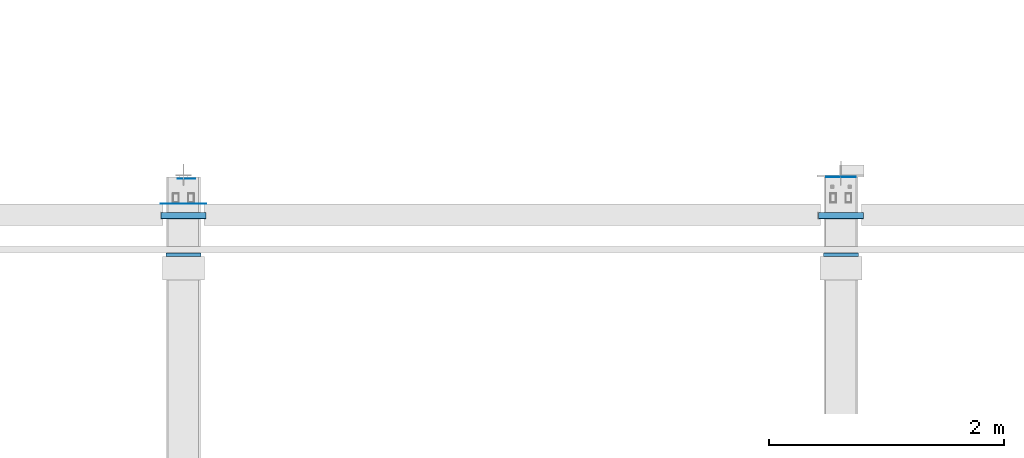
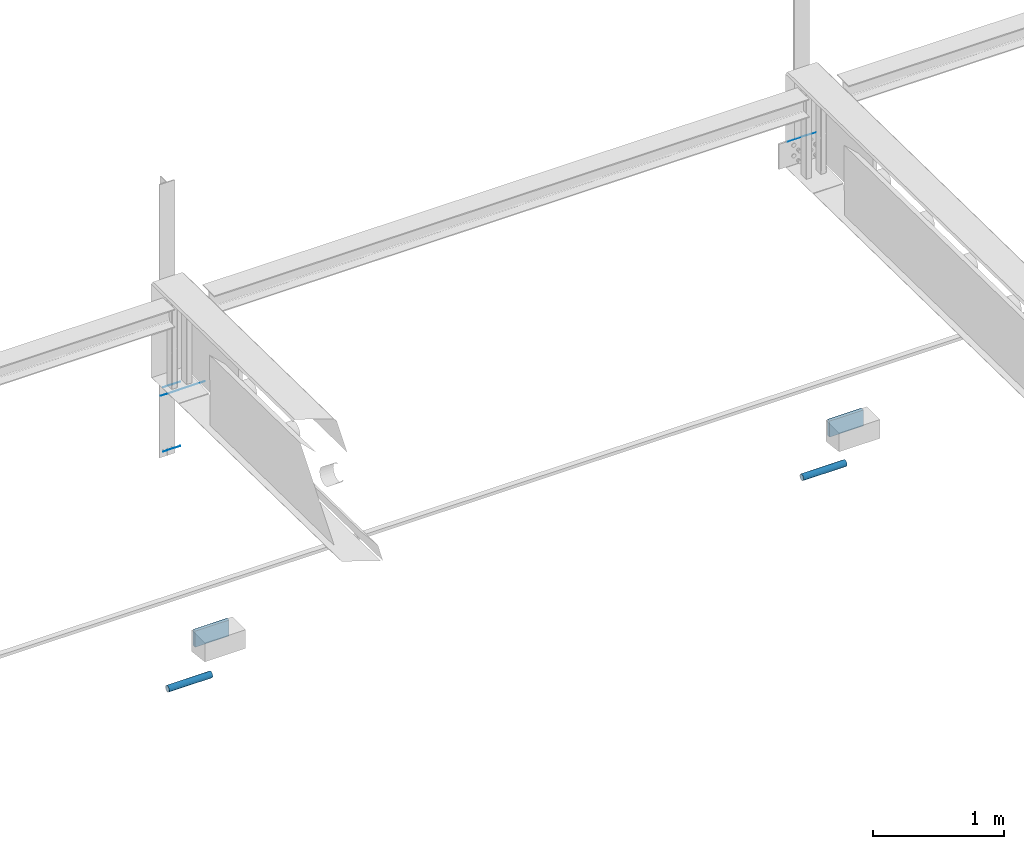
# One storey, part 37 of 186: 8 beams.
"""IFC4X3_ADD2 building model written with IfcOpenShell, lengths in millimetres."""

import ifcopenshell
import ifcopenshell.guid

model = None  # the IFC model being written
_history = None  # IfcOwnerHistory: only IFC2X3 demands one
_inside = {}  # id of a spatial element -> (the spatial element, [elements in it])
_under = {}  # id of a project, library or spatial element -> (it, [spatial elements below it])
_declared = {}  # id of a project -> (the project, [libraries it declares])
_typed = {}  # id of a type object -> (the type object, [elements of that type])
_made_of = {}  # id of a material, layer set ... -> (it, [elements and type objects made of it])


def new_model(schema):
    """Start an empty IFC model of exactly this schema.

    Asked for "IFC4X3", IfcOpenShell would pick the latest addendum, in which some entities
    have other attributes; the version numbers below select the first issue.
    IFC2X3 requires an IfcOwnerHistory on every rooted entity: one is made here for all.
    """
    global model, _history
    if schema == "IFC4X3":
        model = ifcopenshell.file(schema_version=(4, 3, 0, 0))
    else:
        model = ifcopenshell.file(schema=schema)
    _inside.clear()
    _under.clear()
    _declared.clear()
    _typed.clear()
    _made_of.clear()
    _history = None
    if model.schema == "IFC2X3":
        org = make("IfcOrganization", Name="unknown")
        user = make(
            "IfcPersonAndOrganization",
            ThePerson=make("IfcPerson", FamilyName="unknown"),
            TheOrganization=org,
        )
        app = make(
            "IfcApplication",
            ApplicationDeveloper=org,
            Version="unknown",
            ApplicationFullName="unknown",
            ApplicationIdentifier="unknown",
        )
        _history = make(
            "IfcOwnerHistory",
            OwningUser=user,
            OwningApplication=app,
            ChangeAction="ADDED",
            CreationDate=0,
        )
    return model


def make(cls, **values):
    """One entity of the class cls with the attributes given. An attribute that is None is left unset."""
    return model.create_entity(
        cls, **{name: value for name, value in values.items() if value is not None}
    )


def rooted(cls, **values):
    """An entity with a GlobalId (a new one), such as an element, a storey or a relation."""
    return make(cls, GlobalId=ifcopenshell.guid.new(), OwnerHistory=_history, **values)


def si_unit(unit_type, name, prefix=None):
    """IfcSIUnit, for example si_unit("LENGTHUNIT", "METRE", prefix="MILLI")."""
    return make("IfcSIUnit", UnitType=unit_type, Prefix=prefix, Name=name)


def assignment(units):
    """IfcUnitAssignment: the units of a project."""
    return None if units is None else make("IfcUnitAssignment", Units=units)


def point(xyz):
    """IfcCartesianPoint."""
    return None if xyz is None else make("IfcCartesianPoint", Coordinates=xyz)


def direction(xyz):
    """IfcDirection."""
    return None if xyz is None else make("IfcDirection", DirectionRatios=xyz)


def frame(location, z_axis=None, x_axis=None):
    """IfcAxis2Placement3D, a coordinate frame: its origin and axes. An axis left out is left unset."""
    return make(
        "IfcAxis2Placement3D",
        Location=point(location),
        Axis=direction(z_axis),
        RefDirection=direction(x_axis),
    )


def frame_2d(location, x_axis=None):
    """IfcAxis2Placement2D, a coordinate frame in the plane: its origin and x axis."""
    return make(
        "IfcAxis2Placement2D", Location=point(location), RefDirection=direction(x_axis)
    )


def origin_with_axes():
    """The frame at (0, 0, 0) with the z axis (0, 0, 1) and the x axis (1, 0, 0) written out."""
    return frame((0.0, 0.0, 0.0), z_axis=(0.0, 0.0, 1.0), x_axis=(1.0, 0.0, 0.0))


def place(relative_to, where):
    """IfcLocalPlacement: puts the frame where relative to a parent placement (None: the world)."""
    return make(
        "IfcLocalPlacement", PlacementRelTo=relative_to, RelativePlacement=where
    )


def context(
    kind, dimensions, precision=None, world=None, true_north=None, identifier=None
):
    """IfcGeometricRepresentationContext, for example the 3D "Model" context."""
    return make(
        "IfcGeometricRepresentationContext",
        ContextIdentifier=identifier,
        ContextType=kind,
        CoordinateSpaceDimension=dimensions,
        Precision=precision,
        WorldCoordinateSystem=world,
        TrueNorth=true_north,
    )


def subcontext(parent, identifier, kind, view, scale=None):
    """IfcGeometricRepresentationSubContext, for example "Body" below "Model"."""
    return make(
        "IfcGeometricRepresentationSubContext",
        ContextIdentifier=identifier,
        ContextType=kind,
        ParentContext=parent,
        TargetScale=scale,
        TargetView=view,
    )


def project(units=None, contexts=None):
    """IfcProject with its units and contexts."""
    return rooted(
        "IfcProject",
        Name="project",
        RepresentationContexts=contexts,
        UnitsInContext=assignment(units),
    )


def spatial(cls, under=None, at=None, **own):
    """A site, building, storey or space (cls), placed at a placement, below another one or the project."""
    s = rooted(cls, ObjectPlacement=at, **own)
    if under is not None:
        _under.setdefault(under.id(), (under, []))[1].append(s)
    return s


def profile(cls, at=None, kind="AREA", **sizes):
    """A parametric profile (cls). Its sizes go by their IFC names, for example OverallWidth=200.0."""
    return make(cls, ProfileType=kind, Position=at, **sizes)


def rectangle(**sizes):
    """IfcRectangleProfileDef."""
    return profile("IfcRectangleProfileDef", **sizes)


def hollow_circle(**sizes):
    """IfcCircleHollowProfileDef."""
    return profile("IfcCircleHollowProfileDef", **sizes)


def extrude(swept, where, along, depth):
    """IfcExtrudedAreaSolid: the profile swept, set in the frame where, extruded along a direction by depth."""
    return make(
        "IfcExtrudedAreaSolid",
        SweptArea=swept,
        Position=where,
        ExtrudedDirection=direction(along),
        Depth=depth,
    )


def shape(context_of_items, identifier, shape_type, items):
    """IfcShapeRepresentation: the items that make up one representation, for example the "Body"."""
    return make(
        "IfcShapeRepresentation",
        ContextOfItems=context_of_items,
        RepresentationIdentifier=identifier,
        RepresentationType=shape_type,
        Items=items,
    )


def material(Name=None, Category=None):
    """IfcMaterial."""
    return make("IfcMaterial", Name=Name, Category=Category)


def made_of(thing, what):
    """Note that an element or type object is made of a material, layer set ...; save() writes the relation."""
    if what is not None:
        _made_of.setdefault(what.id(), (what, []))[1].append(thing)
    return thing


def element(
    cls,
    number,
    at=None,
    inside=None,
    cuts=None,
    type_object=None,
    material=None,
    context=None,
    identifier="Body",
    shape_type=None,
    held_by="IfcProductDefinitionShape",
    body=None,
    shapes=None,
    **own,
):
    """One element of the class cls, such as IfcWall. Its Tag is "e" and its number.

    at: its placement. inside: the storey or other place that contains it. cuts: it is an
    opening in that element (IfcRelVoidsElement). A single representation is given by context,
    identifier, shape_type and body (its items); several are given by shapes. held_by: the class
    of the entity that holds the representations. save() writes the other relations.
    """
    e = rooted(cls, Tag="e%d" % number, ObjectPlacement=at, **own)
    if body is not None:
        shapes = [shape(context, identifier, shape_type, body)]
    if shapes is not None:
        e.Representation = make(held_by, Representations=shapes)
    if inside is not None:
        _inside.setdefault(inside.id(), (inside, []))[1].append(e)
    if cuts is not None:
        rooted(
            "IfcRelVoidsElement", RelatingBuildingElement=cuts, RelatedOpeningElement=e
        )
    if type_object is not None:
        _typed.setdefault(type_object.id(), (type_object, []))[1].append(e)
    return made_of(e, material)


def aggregate(whole, parts):
    """IfcRelAggregates: a whole, such as a stair, and the parts it consists of."""
    return rooted("IfcRelAggregates", RelatingObject=whole, RelatedObjects=parts)


def save(model, path):
    """Write the relations noted so far, then the file.

    IfcRelAggregates (storeys below a building ...), IfcRelContainedInSpatialStructure (elements
    in a storey), IfcRelDefinesByType, IfcRelAssociatesMaterial and IfcRelDeclares: one each for
    every whole, place, type object, material and project.
    """
    for whole, parts in _under.values():
        aggregate(whole, parts)
    for where, things in _inside.values():
        rooted(
            "IfcRelContainedInSpatialStructure",
            RelatedElements=things,
            RelatingStructure=where,
        )
    for kind, things in _typed.values():
        rooted("IfcRelDefinesByType", RelatedObjects=things, RelatingType=kind)
    for what, things in _made_of.values():
        rooted("IfcRelAssociatesMaterial", RelatedObjects=things, RelatingMaterial=what)
    for by, libraries in _declared.values():
        rooted("IfcRelDeclares", RelatingContext=by, RelatedDefinitions=libraries)
    model.write(path)


model = new_model("IFC4X3_ADD2")

# Units and contexts
model_context = context("Model", 3, precision=1e-05, world=origin_with_axes(), true_north=direction((0.0, 1.0)))
body_context = subcontext(model_context, "Body", "Model", "MODEL_VIEW")
ifc_project = project(units=[si_unit("LENGTHUNIT", "METRE", prefix="MILLI"), si_unit("AREAUNIT", "SQUARE_METRE"), si_unit("VOLUMEUNIT", "CUBIC_METRE"), si_unit("PLANEANGLEUNIT", "RADIAN"), si_unit("TIMEUNIT", "SECOND"), si_unit("MASSUNIT", "GRAM")], contexts=[model_context])

# Site, building, storey
site_placement = place(None, origin_with_axes())
site = spatial("IfcSite", under=ifc_project, at=site_placement, Name="Site", CompositionType="ELEMENT")
building_placement = place(site_placement, origin_with_axes())
building = spatial("IfcBuilding", under=site, at=building_placement, Name="IFC Building Story")
storey_placement = place(building_placement, frame((0.0, 0.0, 4370.0), z_axis=(0.0, 0.0, 1.0), x_axis=(1.0, 0.0, 0.0)))
storey = spatial("IfcBuildingStorey", under=building, at=storey_placement, Name="ETAGE 10 (1)", Elevation=4370.0)

# Beams
ifc_material_1 = material(Name="STEEL/Accessory_invisible 261")
beam_1_placement = place(storey_placement, frame((22281.189, 17979.4989318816, 4079.50041961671), z_axis=(-1.0, 0.0, 0.0), x_axis=(0.0, 1.0, 0.0)))
element("IfcBeam", 1, at=beam_1_placement, inside=storey, material=ifc_material_1, Name="53", ObjectType="1*1 3", context=body_context, shape_type="SweptSolid", body=[
    extrude(rectangle(XDim=0.9999999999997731, YDim=0.9999999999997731, at=frame_2d((0.0, 5.95523630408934e-12), x_axis=(1.0, 0.0))), origin_with_axes(), (0.0, 0.0, 1.0), 250.0),
])
ifc_material_2 = material(Name="STEEL/Accessory_invisible")
beam_2_placement = place(storey_placement, frame((16751.1888269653, 17749.9997253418, 3829.44999999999), z_axis=(-1.0, 0.0, 0.0), x_axis=(0.0, -1.0, 0.0)))
element("IfcBeam", 2, at=beam_2_placement, inside=storey, material=ifc_material_2, Name="RH15", ObjectType="1*1 3", context=body_context, shape_type="SweptSolid", body=[
    extrude(rectangle(XDim=0.9999999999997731, YDim=0.9999999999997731, at=frame_2d((0.0, 5.95523630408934e-12), x_axis=(1.0, 0.0))), origin_with_axes(), (0.0, 0.0, 1.0), 390.0),
])
for number, where, z_axis, x_axis, name in (
    (3, (16656.1888269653, 17962.9997253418, 3729.44999999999), (-1.0, 0.0, 0.0), (0.0, -1.0, 0.0), "RH14"),
    (4, (16656.1888269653, 17962.9997253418, 3129.44999999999), (-1.0, 0.0, 0.0), (0.0, -1.0, 0.0), "RH14"),
):
    element("IfcBeam", number, at=place(storey_placement, frame(where, z_axis=z_axis, x_axis=x_axis)), inside=storey, material=ifc_material_2, Name=name, ObjectType="1*1 3", context=body_context, shape_type="SweptSolid", body=[
        extrude(rectangle(XDim=0.9999999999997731, YDim=0.9999999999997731, at=frame_2d((0.0, 5.95523630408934e-12), x_axis=(1.0, 0.0))), origin_with_axes(), (0.0, 0.0, 1.0), 150.0000000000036),
    ])
ifc_material_3 = material(Name="STEEL/Accessory_PVC")
for number, where, z_axis, x_axis, name in (
    (5, (16364.188827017, 17649.9997253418, 1155.604), (1.0, 0.0, 0.0), (0.0, 0.0, -1.0), "PS13"),
    (6, (21964.1892084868, 17649.9997253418, 1168.306), (1.0, 0.0, 0.0), (0.0, 0.0, -1.0), "PS13"),
):
    element("IfcBeam", number, at=place(storey_placement, frame(where, z_axis=z_axis, x_axis=x_axis)), inside=storey, material=ifc_material_3, Name=name, ObjectType="O56*3", context=body_context, shape_type="SweptSolid", body=[
        extrude(hollow_circle(Radius=28.0, WallThickness=3.0, at=frame_2d((0.0, 5.95523630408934e-12), x_axis=(1.0, 0.0))), origin_with_axes(), (0.0, 0.0, 1.0), 383.9999999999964),
    ])
ifc_material_4 = material(Name="STEEL/Accessory_EPS")
for number, where, z_axis, x_axis, name in (
    (7, (16706.1888269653, 17314.9997253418, 1815.00000000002), (-1.0, 0.0, 0.0), (0.0, 0.0, -1.0), "POL4"),
    (8, (22306.1892084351, 17314.9997253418, 1815.00000000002), (-1.0, 0.0, 0.0), (0.0, 0.0, -1.0), "POL4"),
):
    element("IfcBeam", number, at=place(storey_placement, frame(where, z_axis=z_axis, x_axis=x_axis)), inside=storey, material=ifc_material_4, Name=name, ObjectType="30*300 4", context=body_context, shape_type="SweptSolid", body=[
        extrude(rectangle(XDim=149.999999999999, YDim=29.9999999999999, at=frame_2d((0.0, 5.95523630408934e-12), x_axis=(1.0, 0.0))), origin_with_axes(), (0.0, 0.0, 1.0), 300.0),
    ])

save(model, "model.ifc")
